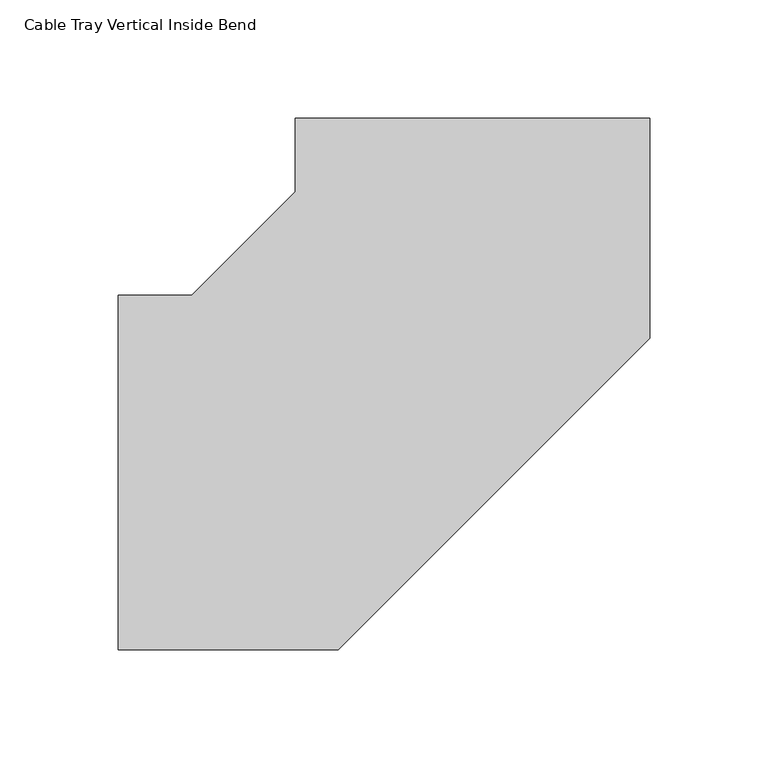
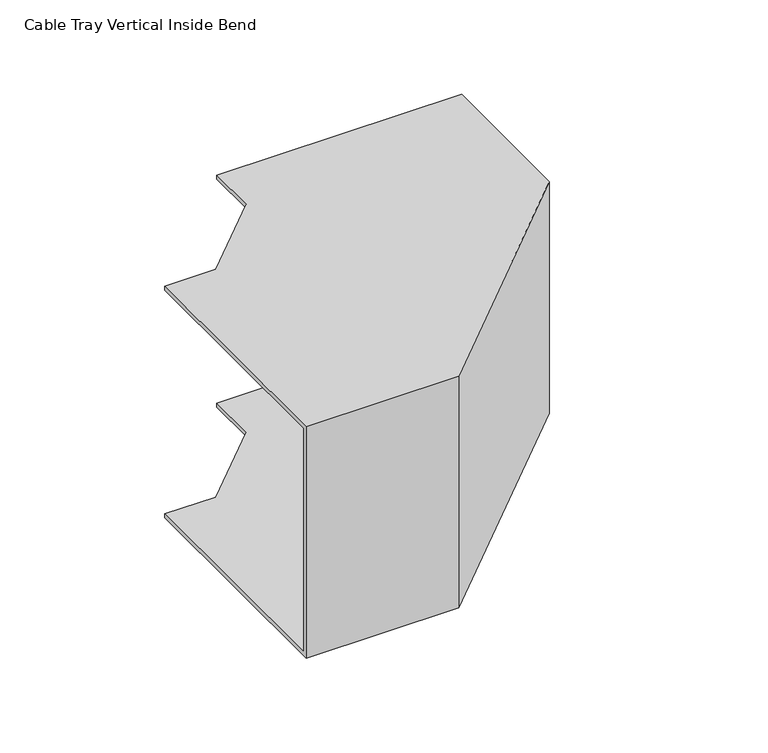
"""IFC4 building model written with IfcOpenShell, lengths in millimetres: cable carrier fitting geometry, Cable Tray Vertical Inside Bend : ELEC_ELV_TKG_N2402."""

from ifc_helpers import new_model, si_unit, origin, place, context, project, spatial, faceted_brep, source, transform, mapped, element, save


def cable_tray_vertical_inside_bend_7e400045(model_context):
    return source(origin(), model_context, "Body", "Brep", [
        faceted_brep([(-149.9916837, 75.0, 75.0), (-149.9916837, 75.0, 72.46), (-149.9916837, -72.46, 72.46), (-149.9916837, -72.46, -72.46), (-149.9916837, 75.0, -72.46), (-149.9916837, 75.0, -75.0), (-149.9916837, -75.0, -75.0), (-149.9916837, -75.0, 75.0), (-74.9916839, 149.9958418, 75.0), (75.0083159, 149.9875253, 75.0), (75.0083159, 149.9875253, -75.0), (-74.9916839, 149.9958418, -75.0), (-74.9916839, 149.9958418, -72.46), (72.4683159, 149.9876661, -72.46), (72.4683159, 149.9876661, 72.46), (-74.9916839, 149.9958418, 72.46), (-118.9268845, 75.0, 75.0), (-118.9268845, 75.0, 72.46), (-74.9934062, 118.9310425, 72.46), (72.4632073, 57.8453296, 72.46), (-57.8493472, -72.46, 72.46), (-57.8493472, -72.46, -72.46), (72.4632073, 57.8453296, -72.46), (-74.9934062, 118.9310425, -72.46), (-118.9268845, 75.0, -72.46), (-118.9268845, 75.0, -75.0), (-74.9934062, 118.9310425, -75.0), (75.0031489, 56.7931276, -75.0), (-56.797286, -75.0, -75.0), (-56.797286, -75.0, 75.0), (75.0031489, 56.7931276, 75.0), (-74.9934062, 118.9310425, 75.0)], [[[0, 1, 2, 3, 4, 5, 6, 7]], [[8, 9, 10, 11, 12, 13, 14, 15]], [[1, 0, 16, 17]], [[2, 1, 17, 18, 15, 14, 19, 20]], [[3, 2, 20, 21]], [[4, 3, 21, 22, 13, 12, 23, 24]], [[5, 4, 24, 25]], [[6, 5, 25, 26, 11, 10, 27, 28]], [[7, 6, 28, 29]], [[0, 7, 29, 30, 9, 8, 31, 16]], [[17, 16, 31, 18]], [[21, 20, 19, 22]], [[25, 24, 23, 26]], [[29, 28, 27, 30]], [[18, 31, 8, 15]], [[22, 19, 14, 13]], [[26, 23, 12, 11]], [[30, 27, 10, 9]]]),
    ])


if __name__ == "__main__":
    model = new_model("IFC4")
    model_context = context("Model", 3, world=origin())
    ifc_project = project(units=[si_unit("LENGTHUNIT", "METRE", prefix="MILLI")], contexts=[model_context])
    site = spatial("IfcSite", under=ifc_project)
    building = spatial("IfcBuilding", under=site)
    placement = place(None, origin())
    cable_tray_vertical_inside_bend_shape = cable_tray_vertical_inside_bend_7e400045(model_context)
    element("IfcCableCarrierFitting", 1, ObjectType="Cable Tray Vertical Inside Bend : ELEC_ELV_TKG_N2402", at=placement, inside=building, context=model_context, shape_type="MappedRepresentation", body=[
        mapped(cable_tray_vertical_inside_bend_shape, transform((0.0, 0.0, 0.0), x_axis=(1.0, 0.0, 0.0), y_axis=(0.0, 1.0, 0.0), z_axis=(0.0, 0.0, 1.0))),
    ])
    save(model, "model.ifc")
